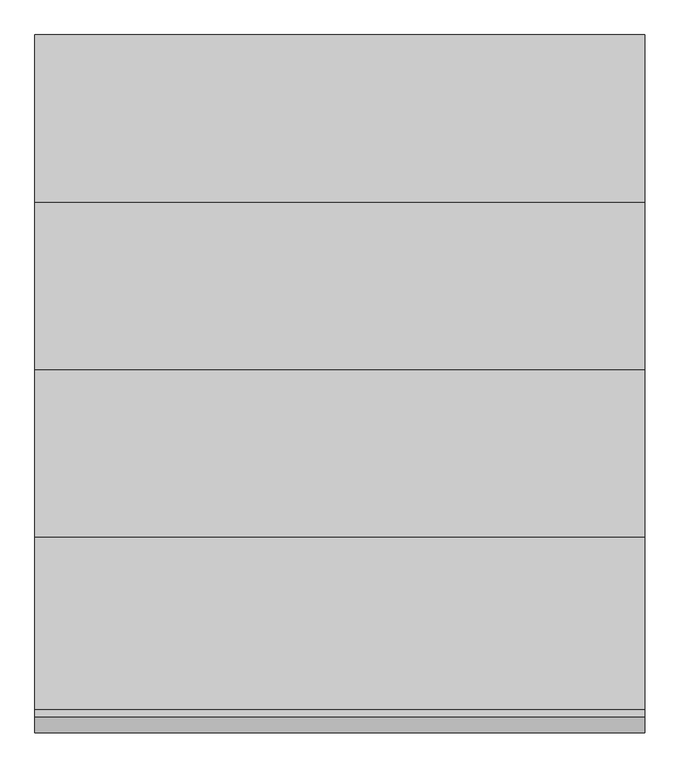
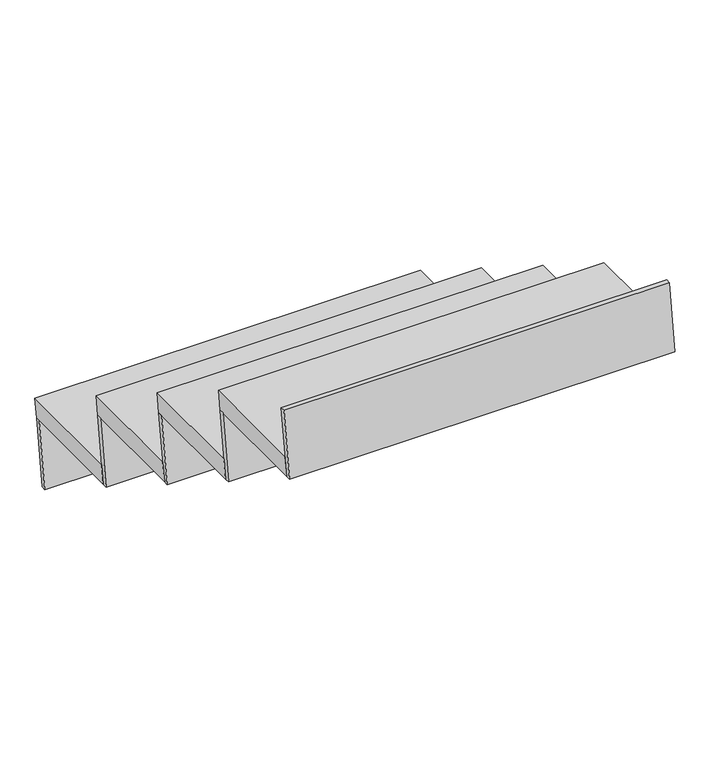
"""IFC4 building model written with IfcOpenShell, lengths in millimetres: stair flight geometry, Проступь 50 мм, свес 25 мм, подступенок 13 мм."""

from ifc_helpers import new_model, si_unit, frame, origin, place, context, project, spatial, polyline, outline, extrude, source, transform, mapped, element, save


def stair_flight_c75f74d2(model_context):
    return source(origin(), model_context, "Body", "SweptSolid", [
        extrude(outline(polyline([(8699.5507128, 1739.1304348), (8999.5507128, 1739.1304348), (8992.3632128, 1689.1304348), (8692.3632128, 1689.1304348), (8699.5507128, 1739.1304348)])), frame((-6502.2328055, 0.0, 0.0), z_axis=(1.0, 0.0, 0.0), x_axis=(0.0, 1.0, 0.0)), (0.0, 0.0, 1.0), 1000.0),
        extrude(outline(polyline([(8992.3632128, 1689.1304348), (8967.3632128, 1515.2173913), (8954.7347228, 1515.2173913), (8979.7347228, 1689.1304348), (8992.3632128, 1689.1304348)])), frame((-6502.2328055, 0.0, 0.0), z_axis=(1.0, 0.0, 0.0), x_axis=(0.0, 1.0, 0.0)), (0.0, 0.0, 1.0), 1000.0),
        extrude(outline(polyline([(8717.3632128, 1863.0434783), (8692.3632128, 1689.1304348), (8679.7347228, 1689.1304348), (8704.7347228, 1863.0434783), (8717.3632128, 1863.0434783)])), frame((-6502.2328055, 0.0, 0.0), z_axis=(1.0, 0.0, 0.0), x_axis=(0.0, 1.0, 0.0)), (0.0, 0.0, 1.0), 1000.0),
        extrude(outline(polyline([(8424.5507128, 1913.0434783), (8724.5507128, 1913.0434783), (8717.3632128, 1863.0434783), (8417.3632128, 1863.0434783), (8424.5507128, 1913.0434783)])), frame((-6502.2328055, 0.0, 0.0), z_axis=(1.0, 0.0, 0.0), x_axis=(0.0, 1.0, 0.0)), (0.0, 0.0, 1.0), 1000.0),
        extrude(outline(polyline([(8442.3632128, 2036.9565217), (8417.3632128, 1863.0434783), (8404.7347228, 1863.0434783), (8429.7347228, 2036.9565217), (8442.3632128, 2036.9565217)])), frame((-6502.2328055, 0.0, 0.0), z_axis=(1.0, 0.0, 0.0), x_axis=(0.0, 1.0, 0.0)), (0.0, 0.0, 1.0), 1000.0),
        extrude(outline(polyline([(8149.5507128, 2086.9565217), (8449.5507128, 2086.9565217), (8442.3632128, 2036.9565217), (8142.3632128, 2036.9565217), (8149.5507128, 2086.9565217)])), frame((-6502.2328055, 0.0, 0.0), z_axis=(1.0, 0.0, 0.0), x_axis=(0.0, 1.0, 0.0)), (0.0, 0.0, 1.0), 1000.0),
        extrude(outline(polyline([(8167.3632128, 2210.8695652), (8142.3632128, 2036.9565217), (8129.7347228, 2036.9565217), (8154.7347228, 2210.8695652), (8167.3632128, 2210.8695652)])), frame((-6502.2328055, 0.0, 0.0), z_axis=(1.0, 0.0, 0.0), x_axis=(0.0, 1.0, 0.0)), (0.0, 0.0, 1.0), 1000.0),
        extrude(outline(polyline([(7892.3632128, 2384.7826087), (7867.3632128, 2210.8695652), (7854.7347228, 2210.8695652), (7879.7347228, 2384.7826087), (7892.3632128, 2384.7826087)])), frame((-6502.2328055, 0.0, 0.0), z_axis=(1.0, 0.0, 0.0), x_axis=(0.0, 1.0, 0.0)), (0.0, 0.0, 1.0), 1000.0),
        extrude(outline(polyline([(7874.5507128, 2260.8695652), (8174.5507128, 2260.8695652), (8167.3632128, 2210.8695652), (7867.3632128, 2210.8695652), (7874.5507128, 2260.8695652)])), frame((-6502.2328055, 0.0, 0.0), z_axis=(1.0, 0.0, 0.0), x_axis=(0.0, 1.0, 0.0)), (0.0, 0.0, 1.0), 1000.0),
    ])


if __name__ == "__main__":
    model = new_model("IFC4")
    model_context = context("Model", 3, world=origin())
    ifc_project = project(units=[si_unit("LENGTHUNIT", "METRE", prefix="MILLI")], contexts=[model_context])
    site = spatial("IfcSite", under=ifc_project)
    building = spatial("IfcBuilding", under=site)
    placement = place(None, origin())
    stair_flight_shape = stair_flight_c75f74d2(model_context)
    element("IfcStairFlight", 1, ObjectType="Проступь 50 мм, свес 25 мм, подступенок 13 мм", at=placement, inside=building, context=model_context, shape_type="MappedRepresentation", body=[
        mapped(stair_flight_shape, transform((0.0, 0.0, 0.0), x_axis=(1.0, 0.0, 0.0), y_axis=(0.0, 1.0, 0.0), z_axis=(0.0, 0.0, 1.0))),
    ])
    save(model, "model.ifc")
